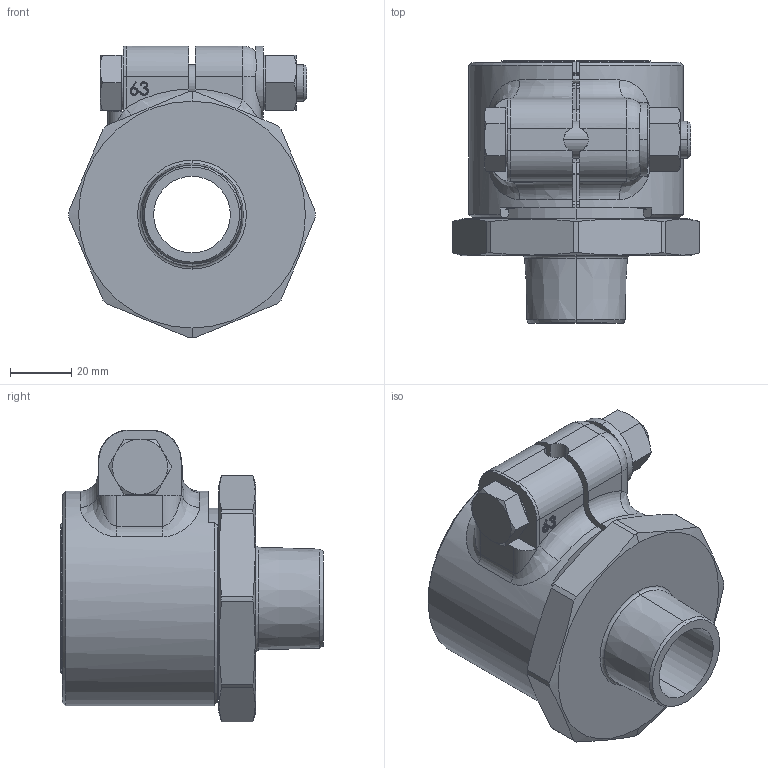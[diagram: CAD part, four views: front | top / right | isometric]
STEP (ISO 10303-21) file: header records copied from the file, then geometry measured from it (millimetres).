
FILE_DESCRIPTION (( 'STEP AP203' ), '1' );
FILE_NAME ('KP_C14- 63-025.step', '2011-08-08T12:02:58', ( '' ), ( '' ), 'SwSTEP 2.0', 'SolidWorks 2011', '' );
FILE_SCHEMA (( 'CONFIG_CONTROL_DESIGN' ));
Length unit declared in the file: millimetre
Products named in the file (1): KP_C14- 63-025
Bounding box: 80.5 x 85.5 x 95.25 mm (x, y, z)
Volume: 156047.3 mm3; surface area: 65459.6 mm2
Topology: 3 solids, 3 shells, 326 faces, 780 edges, 465 vertices
Faces by surface type: cylinder 98, plane 96, bspline 50, cone 42, torus 32, sphere 8
Entity records: 12805 total; most frequent: CARTESIAN_POINT 5460, ORIENTED_EDGE 1544, DIRECTION 1498, EDGE_CURVE 772, AXIS2_PLACEMENT_3D 604, VERTEX_POINT 465, EDGE_LOOP 345, CIRCLE 327
